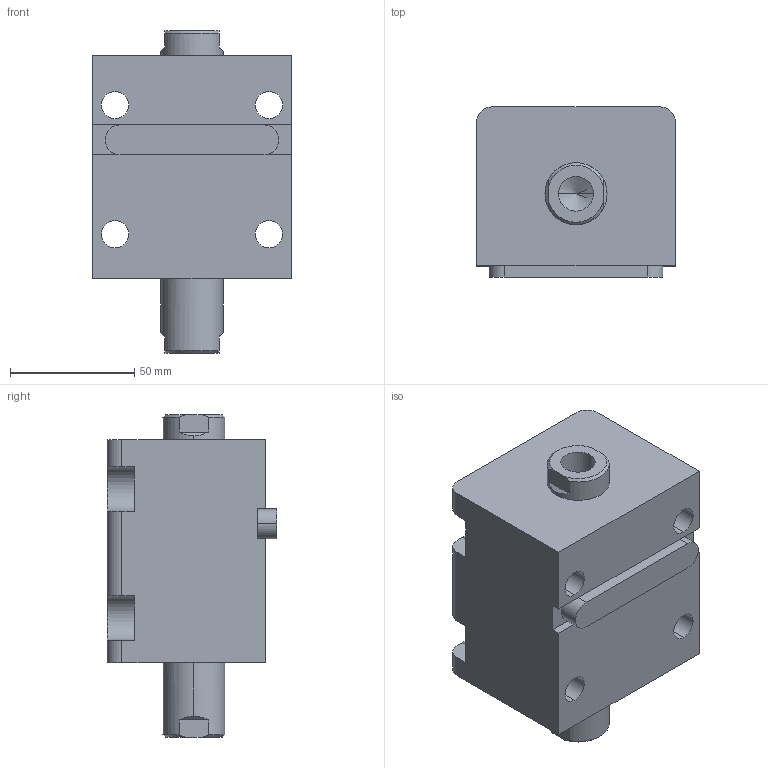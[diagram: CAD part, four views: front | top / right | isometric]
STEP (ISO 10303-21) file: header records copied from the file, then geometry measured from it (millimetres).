
FILE_DESCRIPTION (( 'STEP AP203' ), '1' );
FILE_NAME ('HTB-LW40-20N.STEP', '2019-10-09T07:54:00', ( '微软用户' ), ( '微软中国' ), 'SwSTEP 2.0', 'SolidWorks 2012', '' );
FILE_SCHEMA (( 'CONFIG_CONTROL_DESIGN' ));
Length unit declared in the file: millimetre
Products named in the file (4): HTB-LA40-瑩; HTB-LW40-20N; HTB-LW40-20N活塞杆; HTB-LW40-20掛极
Assembly tree (3 placements, depth 2):
  HTB-LW40-20N
    HTB-LW40-20掛极
    HTB-LW40-20N活塞杆
    HTB-LA40-瑩
Bounding box: 80 x 68.5 x 130 mm (x, y, z)
Volume: 424697.5 mm3; surface area: 72309.9 mm2
Topology: 3 solids, 3 shells, 105 faces, 261 edges, 168 vertices
Faces by surface type: plane 44, cylinder 41, cone 12, torus 8
Entity records: 3567 total; most frequent: CARTESIAN_POINT 588, DIRECTION 573, ORIENTED_EDGE 514, EDGE_CURVE 257, AXIS2_PLACEMENT_3D 221, VERTEX_POINT 168, LINE 131, VECTOR 131
